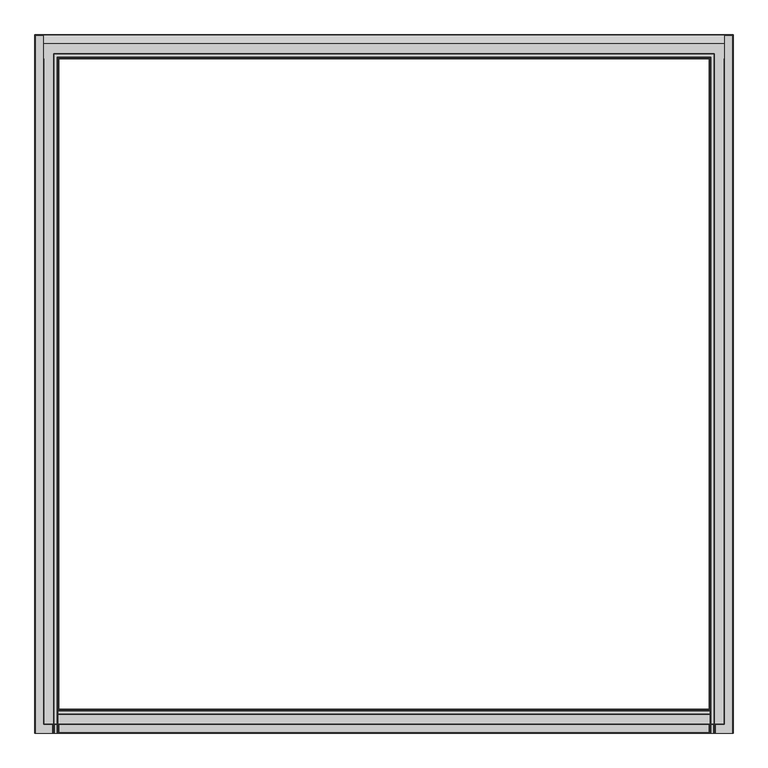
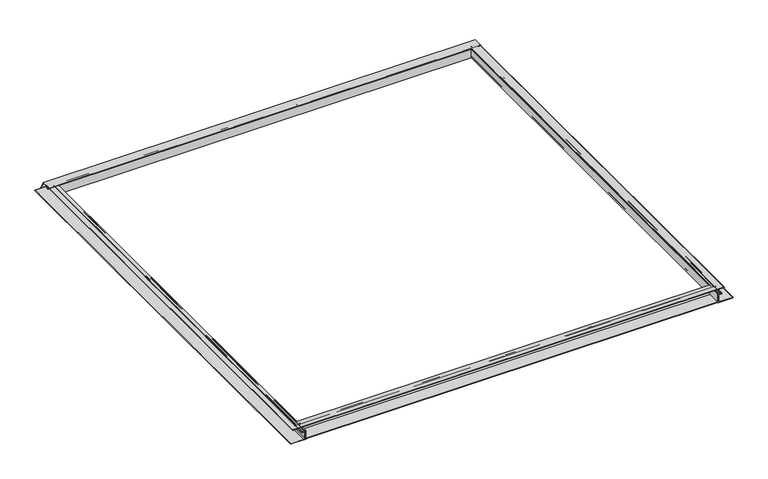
"""IFC4 building model written with IfcOpenShell, lengths in millimetres: fastener geometry."""

from ifc_helpers import new_model, si_unit, point, frame, frame_2d, origin, place, context, project, spatial, polyline, circle_curve, ellipse_curve, trimmed, segment, composite_curve, outline, extrude, source, transform, mapped, element, save
from ifc_brep_helpers import plane_surface, cylinder_surface, revolved_surface, advanced_brep


def fastener_e2efdb11(model_context):
    return source(origin(), model_context, "Body", "SolidModel", [
        advanced_brep(
        [(-1189.1053092, 1141.2343456, -2.667), (-1189.1053092, 1135.3165, -2.667), (-1189.1053092, 1135.3165, -1.3335), (-1189.1053092, 1135.3165, 0.0), (-1189.1053092, 1190.6451024, 0.0), (-1189.1053092, 1217.7515464, -46.9497383), (-1189.1053092, 1215.4418567, -48.2832383), (-1189.1053092, 1189.1053092, -2.667), (-1189.1053092, 1161.8308783, -2.667), (-1189.1053092, 1159.573508, -4.9243702), (-1189.1053092, 1159.573508, -14.2617849), (-1189.1053092, 1149.6719492, -14.2617849), (-1189.1053092, 1149.6719492, -12.2646442), (-1189.1053092, 1150.5032605, -12.2646442), (-1189.1053092, 1151.5117177, -11.256187), (-1189.1053092, 1151.5117177, -9.3645413), (-1189.1053092, 1156.2117258, -9.3645413), (-1189.1053092, 1156.2117258, -2.667), (-1189.1053092, 1152.1178999, -2.667), (-1189.1053092, 1151.9131963, -4.7080293), (-1189.1053092, 1152.9812344, -5.7760674), (-1189.1053092, 1152.5091166, -6.6975413), (-1189.1053092, 1140.8431289, -6.6975413), (-1189.1053092, 1140.3710112, -5.7760674), (-1189.1053092, 1141.4390493, -4.7080293), (1189.1053092, 1141.2343456, -2.667), (1189.1053092, 1141.4390493, -4.7080293), (1189.1053092, 1140.3710112, -5.7760674), (1189.1053092, 1140.8431289, -6.6975413), (1189.1053092, 1152.5091166, -6.6975413), (1189.1053092, 1152.9812344, -5.7760674), (1189.1053092, 1151.9131963, -4.7080293), (1189.1053092, 1152.1178999, -2.667), (1189.1053092, 1156.2117258, -2.667), (1189.1053092, 1156.2117258, -9.3645413), (1189.1053092, 1151.5117177, -9.3645413), (1189.1053092, 1151.5117177, -11.256187), (1189.1053092, 1150.5032605, -12.2646442), (1189.1053092, 1149.6719492, -12.2646442), (1189.1053092, 1149.6719492, -14.2617849), (1189.1053092, 1159.573508, -14.2617849), (1189.1053092, 1159.573508, -4.9243702), (1189.1053092, 1161.8308783, -2.667), (1189.1053092, 1189.1053092, -2.667), (1189.1053092, 1215.4418567, -48.2832383), (1189.1053092, 1217.7515464, -46.9497383), (1189.1053092, 1190.6451024, 0.0), (1189.1053092, 1135.3165, 0.0), (1189.1053092, 1135.3165, -1.3335), (1189.1053092, 1135.3165, -2.667), (1187.7718092, 1135.3165, -2.667), (1187.7718092, -1187.7718092, -2.667), (-1187.7718092, -1187.7718092, -2.667), (-1187.7718092, 1135.3165, -2.667), (1135.3165, 1135.3165, -2.667), (-1135.3165, 1135.3165, -2.667), (-1135.3165, -1135.3165, -2.667), (1135.3165, -1135.3165, -2.667), (-1141.2160631, 1135.3165, -2.667), (-1152.1361825, 1135.3165, -2.667), (-1152.1361825, -1152.1361825, -2.667), (1152.1361825, -1152.1361825, -2.667), (1152.1361825, 1135.3165, -2.667), (1141.2160631, 1135.3165, -2.667), (1141.2160631, -1141.2160631, -2.667), (-1141.2160631, -1141.2160631, -2.667), (-1156.2117258, 1135.3165, -2.667), (-1161.8308783, 1135.3165, -2.667), (-1161.8308783, -1161.8308783, -2.667), (1161.8308783, -1161.8308783, -2.667), (1161.8308783, 1135.3165, -2.667), (1156.2117258, 1135.3165, -2.667), (1156.2117258, -1156.2117258, -2.667), (-1156.2117258, -1156.2117258, -2.667), (-1187.7718092, 1135.3165, 0.0), (1187.7718092, 1135.3165, 0.0), (1135.3165, 1135.3165, 0.0), (-1135.3165, 1135.3165, 0.0), (-1187.7718092, -1187.7718092, 0.0), (1187.7718092, -1187.7718092, 0.0), (1135.3165, -1135.3165, 0.0), (-1135.3165, -1135.3165, 0.0), (-1141.4390493, 1135.3165, -4.7199355), (-1140.3710112, 1135.3165, -5.7879736), (-1140.8431289, 1135.3165, -6.7094475), (-1152.5091166, 1135.3165, -6.7094475), (-1152.9812344, 1135.3165, -5.7879736), (-1151.9131963, 1135.3165, -4.7199355), (-1156.2117258, 1135.3165, -9.3764475), (-1151.5117177, 1135.3165, -9.3764475), (-1151.5117177, 1135.3165, -11.2680933), (-1150.5032605, 1135.3165, -12.2765504), (-1149.6719492, 1135.3165, -12.2765504), (-1149.6719492, 1135.3165, -14.2617849), (-1159.573508, 1135.3165, -14.2617849), (-1159.573508, 1135.3165, -4.9243702), (-1141.4390493, -1141.4390493, -4.7199355), (-1140.3710112, -1140.3710112, -5.7879736), (-1140.8431289, -1140.8431289, -6.7094475), (1140.8431289, -1140.8431289, -6.7094475), (1140.8431289, 1135.3165, -6.7094475), (1152.5091166, 1135.3165, -6.7094475), (1152.5091166, -1152.5091166, -6.7094475), (-1152.5091166, -1152.5091166, -6.7094475), (-1152.9812344, -1152.9812344, -5.7879736), (-1151.9131963, -1151.9131963, -4.7199355), (-1156.2117258, -1156.2117258, -9.3764475), (1156.2117258, -1156.2117258, -9.3764475), (1156.2117258, 1135.3165, -9.3764475), (1151.5117177, 1135.3165, -9.3764475), (1151.5117177, -1151.5117177, -9.3764475), (-1151.5117177, -1151.5117177, -9.3764475), (-1151.5117177, -1151.5117177, -11.2680933), (-1150.5032605, -1150.5032605, -12.2765504), (1150.5032605, -1150.5032605, -12.2765504), (1150.5032605, 1135.3165, -12.2765504), (1149.6719492, 1135.3165, -12.2765504), (1149.6719492, -1149.6719492, -12.2765504), (-1149.6719492, -1149.6719492, -12.2765504), (-1149.6719492, -1149.6719492, -14.2617849), (1149.6719492, -1149.6719492, -14.2617849), (1149.6719492, 1135.3165, -14.2617849), (1159.573508, 1135.3165, -14.2617849), (1159.573508, -1159.573508, -14.2617849), (-1159.573508, -1159.573508, -14.2617849), (-1159.573508, -1159.573508, -4.9243702), (1141.4390493, -1141.4390493, -4.7199355), (1140.3710112, -1140.3710112, -5.7879736), (1152.9812344, -1152.9812344, -5.7879736), (1151.9131963, -1151.9131963, -4.7199355), (1151.5117177, -1151.5117177, -11.2680933), (1159.573508, -1159.573508, -4.9243702), (1140.3710112, 1135.3165, -5.7879736), (1141.4390493, 1135.3165, -4.7199355), (1151.9131963, 1135.3165, -4.7199355), (1152.9812344, 1135.3165, -5.7879736), (1159.573508, 1135.3165, -4.9243702), (1151.5117177, 1135.3165, -11.2680933)],
        [
            (0, 1),
            (1, 2),
            (2, 3),
            (3, 4),
            (4, 5),
            (5, 6),
            (6, 7),
            (7, 8),
            (8, 9, circle_curve(frame((-1189.1053092, 1161.8308783, -4.9243702), z_axis=(1.0, 0.0, 0.0), x_axis=(0.0, 1.0, 0.0)), 2.2573702)),
            (9, 10),
            (10, 11),
            (11, 12, circle_curve(frame((-1189.1053092, 1149.6719492, -13.2632145), z_axis=(-1.0, 0.0, 0.0), x_axis=(0.0, 1.0, 0.0)), 0.9985703)),
            (12, 13),
            (13, 14, circle_curve(frame((-1189.1053092, 1150.5032605, -11.256187), z_axis=(1.0, 0.0, 0.0), x_axis=(0.0, 1.0, 0.0)), 1.0084572)),
            (14, 15),
            (15, 16),
            (16, 17),
            (17, 18),
            (18, 19, circle_curve(frame((-1189.1053092, 1152.8500183, -3.7712073), z_axis=(1.0, 0.0, 0.0), x_axis=(0.0, 1.0, 0.0)), 1.3248664)),
            (19, 20),
            (20, 21, circle_curve(frame((-1189.1053092, 1152.5091166, -6.1158594), z_axis=(-1.0, 0.0, 0.0), x_axis=(0.0, 1.0, 0.0)), 0.5816819)),
            (21, 22),
            (22, 23, circle_curve(frame((-1189.1053092, 1140.8431289, -6.1158594), z_axis=(-1.0, 0.0, 0.0), x_axis=(0.0, 1.0, 0.0)), 0.5816819)),
            (23, 24),
            (24, 0, circle_curve(frame((-1189.1053092, 1140.5022273, -3.7712073), z_axis=(1.0, 0.0, 0.0), x_axis=(0.0, 1.0, 0.0)), 1.3248664)),
            (25, 26, circle_curve(frame((1189.1053092, 1140.5022273, -3.7712073), z_axis=(-1.0, 0.0, 0.0), x_axis=(0.0, 1.0, 0.0)), 1.3248664)),
            (26, 27),
            (27, 28, circle_curve(frame((1189.1053092, 1140.8431289, -6.1158594), z_axis=(1.0, 0.0, 0.0), x_axis=(0.0, 1.0, 0.0)), 0.5816819)),
            (28, 29),
            (29, 30, circle_curve(frame((1189.1053092, 1152.5091166, -6.1158594), z_axis=(1.0, 0.0, 0.0), x_axis=(0.0, 1.0, 0.0)), 0.5816819)),
            (30, 31),
            (31, 32, circle_curve(frame((1189.1053092, 1152.8500183, -3.7712073), z_axis=(-1.0, 0.0, 0.0), x_axis=(0.0, 1.0, 0.0)), 1.3248664)),
            (32, 33),
            (33, 34),
            (34, 35),
            (35, 36),
            (36, 37, circle_curve(frame((1189.1053092, 1150.5032605, -11.256187), z_axis=(-1.0, 0.0, 0.0), x_axis=(0.0, 1.0, 0.0)), 1.0084572)),
            (37, 38),
            (38, 39, circle_curve(frame((1189.1053092, 1149.6719492, -13.2632145), z_axis=(1.0, 0.0, 0.0), x_axis=(0.0, 1.0, 0.0)), 0.9985703)),
            (39, 40),
            (40, 41),
            (41, 42, circle_curve(frame((1189.1053092, 1161.8308783, -4.9243702), z_axis=(-1.0, 0.0, 0.0), x_axis=(0.0, 1.0, 0.0)), 2.2573702)),
            (42, 43),
            (43, 44),
            (44, 45),
            (45, 46),
            (46, 47),
            (47, 48),
            (48, 49),
            (49, 25),
            (0, 25),
            (49, 50),
            (50, 51),
            (51, 52),
            (52, 53),
            (53, 1),
            (54, 55),
            (55, 56),
            (56, 57),
            (57, 54),
            (58, 59),
            (59, 60),
            (60, 61),
            (61, 62),
            (62, 63),
            (63, 64),
            (64, 65),
            (65, 58),
            (66, 67),
            (67, 68),
            (68, 69),
            (69, 70),
            (70, 71),
            (71, 72),
            (72, 73),
            (73, 66),
            (53, 2, circle_curve(frame((-1187.7718092, 1135.3165, -1.3335), z_axis=(0.0, 1.0, 0.0), x_axis=(1.0, 0.0, 0.0)), 1.3335)),
            (2, 74, circle_curve(frame((-1187.7718092, 1135.3165, -1.3335), z_axis=(0.0, 1.0, 0.0), x_axis=(1.0, 0.0, 0.0)), 1.3335)),
            (74, 3),
            (47, 75),
            (75, 48, circle_curve(frame((1187.7718092, 1135.3165, -1.3335), z_axis=(0.0, 1.0, 0.0), x_axis=(-1.0, 0.0, 0.0)), 1.3335)),
            (48, 50, circle_curve(frame((1187.7718092, 1135.3165, -1.3335), z_axis=(0.0, 1.0, 0.0), x_axis=(-1.0, 0.0, 0.0)), 1.3335)),
            (54, 76),
            (76, 77),
            (77, 55),
            (74, 78),
            (78, 79),
            (79, 75),
            (46, 4),
            (76, 80),
            (80, 81),
            (81, 77),
            (45, 5),
            (44, 6),
            (43, 7),
            (42, 8),
            (41, 9),
            (40, 10),
            (39, 11),
            (38, 12),
            (37, 13),
            (36, 14),
            (35, 15),
            (34, 16),
            (33, 17),
            (32, 18),
            (19, 31),
            (30, 20),
            (29, 21),
            (28, 22),
            (27, 23),
            (26, 24),
            (58, 82, circle_curve(frame((-1140.5022273, 1135.3165, -3.7831135), z_axis=(0.0, -1.0, 0.0), x_axis=(1.0, 0.0, 0.0)), 1.3248664)),
            (82, 83),
            (83, 84, circle_curve(frame((-1140.8431289, 1135.3165, -6.1277656), z_axis=(0.0, 1.0, 0.0), x_axis=(1.0, 0.0, 0.0)), 0.5816819)),
            (84, 85),
            (85, 86, circle_curve(frame((-1152.5091166, 1135.3165, -6.1277656), z_axis=(0.0, 1.0, 0.0), x_axis=(1.0, 0.0, 0.0)), 0.5816819)),
            (86, 87),
            (87, 59, circle_curve(frame((-1152.8500183, 1135.3165, -3.7831135), z_axis=(0.0, -1.0, 0.0), x_axis=(1.0, 0.0, 0.0)), 1.3248664)),
            (66, 88),
            (88, 89),
            (89, 90),
            (90, 91, circle_curve(frame((-1150.5032605, 1135.3165, -11.2680933), z_axis=(0.0, -1.0, 0.0), x_axis=(1.0, 0.0, 0.0)), 1.0084572)),
            (91, 92),
            (92, 93, circle_curve(frame((-1149.6719492, 1135.3165, -13.2691676), z_axis=(0.0, 1.0, 0.0), x_axis=(1.0, 0.0, 0.0)), 0.9926172)),
            (93, 94),
            (94, 95),
            (95, 67, circle_curve(frame((-1161.8308783, 1135.3165, -4.9243702), z_axis=(0.0, -1.0, 0.0), x_axis=(1.0, 0.0, 0.0)), 2.2573702)),
            (65, 96, ellipse_curve(frame((-1140.5022273, -1140.5022273, -3.7831135), z_axis=(0.7071067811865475, -0.7071067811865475, 0.0), x_axis=(-0.7071067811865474, -0.7071067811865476, 0.0)), 1.873644, 1.3248664)),
            (96, 82),
            (96, 97),
            (97, 83),
            (97, 98, ellipse_curve(frame((-1140.8431289, -1140.8431289, -6.1277656), z_axis=(-0.7071067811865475, 0.7071067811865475, 0.0), x_axis=(0.7071067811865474, 0.7071067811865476, 0.0)), 0.8226224, 0.5816819)),
            (98, 84),
            (98, 99),
            (99, 100),
            (100, 101),
            (101, 102),
            (102, 103),
            (103, 85),
            (103, 104, ellipse_curve(frame((-1152.5091166, -1152.5091166, -6.1277656), z_axis=(-0.7071067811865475, 0.7071067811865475, 0.0), x_axis=(0.7071067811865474, 0.7071067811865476, 0.0)), 0.8226224, 0.5816819)),
            (104, 86),
            (104, 105),
            (105, 87),
            (105, 60, ellipse_curve(frame((-1152.8500183, -1152.8500183, -3.7831135), z_axis=(0.7071067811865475, -0.7071067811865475, 0.0), x_axis=(-0.7071067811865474, -0.7071067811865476, 0.0)), 1.873644, 1.3248664)),
            (73, 106),
            (106, 88),
            (106, 107),
            (107, 108),
            (108, 109),
            (109, 110),
            (110, 111),
            (111, 89),
            (111, 112),
            (112, 90),
            (112, 113, ellipse_curve(frame((-1150.5032605, -1150.5032605, -11.2680933), z_axis=(0.7071067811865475, -0.7071067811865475, 0.0), x_axis=(-0.7071067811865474, -0.7071067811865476, 0.0)), 1.4261738, 1.0084572)),
            (113, 91),
            (113, 114),
            (114, 115),
            (115, 116),
            (116, 117),
            (117, 118),
            (118, 92),
            (118, 119, ellipse_curve(frame((-1149.6719492, -1149.6719492, -13.2691676), z_axis=(-0.7071067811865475, 0.7071067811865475, 0.0), x_axis=(0.7071067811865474, 0.7071067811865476, 0.0)), 1.4037727, 0.9926172)),
            (119, 93),
            (119, 120),
            (120, 121),
            (121, 122),
            (122, 123),
            (123, 124),
            (124, 94),
            (124, 125),
            (125, 95),
            (125, 68, ellipse_curve(frame((-1161.8308783, -1161.8308783, -4.9243702), z_axis=(0.7071067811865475, -0.7071067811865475, 0.0), x_axis=(-0.7071067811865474, -0.7071067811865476, 0.0)), 3.1924036, 2.2573702)),
            (52, 78, ellipse_curve(frame((-1187.7718092, -1187.7718092, -1.3335), z_axis=(-0.7071067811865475, 0.7071067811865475, 0.0), x_axis=(0.7071067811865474, 0.7071067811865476, 0.0)), 1.8858538, 1.3335)),
            (81, 56),
            (64, 126, ellipse_curve(frame((1140.5022273, -1140.5022273, -3.7831135), z_axis=(0.7071067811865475, 0.7071067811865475, 0.0), x_axis=(0.7071067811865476, -0.7071067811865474, 0.0)), 1.873644, 1.3248664)),
            (126, 96),
            (126, 127),
            (127, 97),
            (127, 99, ellipse_curve(frame((1140.8431289, -1140.8431289, -6.1277656), z_axis=(-0.7071067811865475, -0.7071067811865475, 0.0), x_axis=(-0.7071067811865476, 0.7071067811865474, 0.0)), 0.8226224, 0.5816819)),
            (102, 128, ellipse_curve(frame((1152.5091166, -1152.5091166, -6.1277656), z_axis=(-0.7071067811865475, -0.7071067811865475, 0.0), x_axis=(-0.7071067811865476, 0.7071067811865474, 0.0)), 0.8226224, 0.5816819)),
            (128, 104),
            (128, 129),
            (129, 105),
            (129, 61, ellipse_curve(frame((1152.8500183, -1152.8500183, -3.7831135), z_axis=(0.7071067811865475, 0.7071067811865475, 0.0), x_axis=(0.7071067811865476, -0.7071067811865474, 0.0)), 1.873644, 1.3248664)),
            (72, 107),
            (110, 130),
            (130, 112),
            (130, 114, ellipse_curve(frame((1150.5032605, -1150.5032605, -11.2680933), z_axis=(0.7071067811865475, 0.7071067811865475, 0.0), x_axis=(0.7071067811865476, -0.7071067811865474, 0.0)), 1.4261738, 1.0084572)),
            (117, 120, ellipse_curve(frame((1149.6719492, -1149.6719492, -13.2691676), z_axis=(-0.7071067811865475, -0.7071067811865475, 0.0), x_axis=(-0.7071067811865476, 0.7071067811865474, 0.0)), 1.4037727, 0.9926172)),
            (123, 131),
            (131, 125),
            (131, 69, ellipse_curve(frame((1161.8308783, -1161.8308783, -4.9243702), z_axis=(0.7071067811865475, 0.7071067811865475, 0.0), x_axis=(0.7071067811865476, -0.7071067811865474, 0.0)), 3.1924036, 2.2573702)),
            (51, 79, ellipse_curve(frame((1187.7718092, -1187.7718092, -1.3335), z_axis=(-0.7071067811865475, -0.7071067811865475, 0.0), x_axis=(-0.7071067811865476, 0.7071067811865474, 0.0)), 1.8858538, 1.3335)),
            (80, 57),
            (100, 132, circle_curve(frame((1140.8431289, 1135.3165, -6.1277656), z_axis=(0.0, 1.0, 0.0), x_axis=(-1.0, 0.0, 0.0)), 0.5816819)),
            (132, 133),
            (133, 63, circle_curve(frame((1140.5022273, 1135.3165, -3.7831135), z_axis=(0.0, -1.0, 0.0), x_axis=(-1.0, 0.0, 0.0)), 1.3248664)),
            (62, 134, circle_curve(frame((1152.8500183, 1135.3165, -3.7831135), z_axis=(0.0, -1.0, 0.0), x_axis=(-1.0, 0.0, 0.0)), 1.3248664)),
            (134, 135),
            (135, 101, circle_curve(frame((1152.5091166, 1135.3165, -6.1277656), z_axis=(0.0, 1.0, 0.0), x_axis=(-1.0, 0.0, 0.0)), 0.5816819)),
            (108, 71),
            (70, 136, circle_curve(frame((1161.8308783, 1135.3165, -4.9243702), z_axis=(0.0, -1.0, 0.0), x_axis=(-1.0, 0.0, 0.0)), 2.2573702)),
            (136, 122),
            (121, 116, circle_curve(frame((1149.6719492, 1135.3165, -13.2691676), z_axis=(0.0, 1.0, 0.0), x_axis=(-1.0, 0.0, 0.0)), 0.9926172)),
            (115, 137, circle_curve(frame((1150.5032605, 1135.3165, -11.2680933), z_axis=(0.0, -1.0, 0.0), x_axis=(-1.0, 0.0, 0.0)), 1.0084572)),
            (137, 109),
            (133, 126),
            (132, 127),
            (135, 128),
            (134, 129),
            (137, 130),
            (136, 131),
        ],
        [
            plane_surface(frame((-1189.1053092, 1219.2, 0.0), z_axis=(-1.0, 0.0, 0.0), x_axis=(0.0, 0.0, 1.0))),
            plane_surface(frame((1189.1053092, 1219.2, 0.0), z_axis=(1.0, 0.0, 0.0), x_axis=(0.0, 0.0, 1.0))),
            plane_surface(frame((-1189.1053092, 1141.2343456, -2.667), z_axis=(0.0, 0.0, -1.0), x_axis=(1.0, 0.0, 0.0))),
            plane_surface(frame((-1189.1053092, 1135.3165, -2.667), z_axis=(0.0, -1.0, 0.0), x_axis=(1.0, 0.0, 0.0))),
            plane_surface(frame((-1189.1053092, 1135.3165, 0.0), z_axis=(0.0, 0.0, 1.0), x_axis=(1.0, 0.0, 0.0))),
            plane_surface(frame((-1189.1053092, 1190.6451024, 0.0), z_axis=(0.0, 0.8660254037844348, 0.5000000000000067), x_axis=(1.0, 0.0, 0.0))),
            plane_surface(frame((-1189.1053092, 1217.7515464, -46.9497383), z_axis=(0.0, 0.4999999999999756, -0.8660254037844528), x_axis=(1.0, 0.0, 0.0))),
            plane_surface(frame((-1189.1053092, 1215.4418567, -48.2832383), z_axis=(0.0, -0.866025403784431, -0.5000000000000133), x_axis=(1.0, 0.0, 0.0))),
            plane_surface(frame((-1189.1053092, 1189.1053092, -2.667), z_axis=(0.0, 0.0, -1.0), x_axis=(1.0, 0.0, 0.0))),
            revolved_surface(polyline([(1189.1053092, 1164.0882485, -4.9243702), (-1189.1053092, 1164.0882485, -4.9243702)]), (-1189.1053092, 1161.8308783, -4.9243702), (1.0, 0.0, 0.0)),
            plane_surface(frame((-1189.1053092, 1159.573508, -4.9243702), z_axis=(0.0, 1.0, 0.0), x_axis=(1.0, 0.0, 0.0))),
            plane_surface(frame((-1189.1053092, 1159.573508, -14.2617849), z_axis=(0.0, 0.0, -1.0), x_axis=(1.0, 0.0, 0.0))),
            cylinder_surface(frame((-1189.1053092, 1149.6719492, -13.2632145), z_axis=(-1.0, 0.0, 0.0), x_axis=(0.0, 1.0, 0.0)), 0.9985703),
            plane_surface(frame((-1189.1053092, 1149.6719492, -12.2646442), z_axis=(0.0, 0.0, 1.0), x_axis=(1.0, 0.0, 0.0))),
            revolved_surface(polyline([(1189.1053092, 1151.5117177, -11.256187), (-1189.1053092, 1151.5117177, -11.256187)]), (-1189.1053092, 1150.5032605, -11.256187), (1.0, 0.0, 0.0)),
            plane_surface(frame((-1189.1053092, 1151.5117177, -11.256187), z_axis=(0.0, -1.0, 0.0), x_axis=(1.0, 0.0, 0.0))),
            plane_surface(frame((-1189.1053092, 1151.5117177, -9.3645413), z_axis=(0.0, 0.0, 1.0), x_axis=(1.0, 0.0, 0.0))),
            plane_surface(frame((-1189.1053092, 1156.2117258, -9.3645413), z_axis=(0.0, -1.0, 0.0), x_axis=(1.0, 0.0, 0.0))),
            plane_surface(frame((-1189.1053092, 1156.2117258, -2.667), z_axis=(0.0, 0.0, -1.0), x_axis=(1.0, 0.0, 0.0))),
            plane_surface(frame((-1189.1053092, 1151.9131963, -4.7080293), z_axis=(0.0, 0.7071067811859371, 0.7071067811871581), x_axis=(1.0, 0.0, 0.0))),
            cylinder_surface(frame((-1189.1053092, 1152.5091166, -6.1158594), z_axis=(-1.0, 0.0, 0.0), x_axis=(0.0, 1.0, 0.0)), 0.5816819),
            plane_surface(frame((-1189.1053092, 1152.5091166, -6.6975413), z_axis=(0.0, 0.0, -1.0), x_axis=(1.0, 0.0, 0.0))),
            cylinder_surface(frame((-1189.1053092, 1140.8431289, -6.1158594), z_axis=(-1.0, 0.0, 0.0), x_axis=(0.0, 1.0, 0.0)), 0.5816819),
            plane_surface(frame((-1189.1053092, 1140.3710112, -5.7760674), z_axis=(0.0, -0.7071067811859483, 0.7071067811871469), x_axis=(1.0, 0.0, 0.0))),
            revolved_surface(polyline([(1189.1053092, 1154.1748847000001, -3.7712073), (-1189.1053092, 1154.1748847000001, -3.7712073)]), (-1189.1053092, 1152.8500183, -3.7712073), (1.0, 0.0, 0.0)),
            revolved_surface(polyline([(1189.1053092, 1141.8270937, -3.7712073), (-1189.1053092, 1141.8270937, -3.7712073)]), (-1189.1053092, 1140.5022273, -3.7712073), (1.0, 0.0, 0.0)),
            plane_surface(frame((-1219.2, 1135.3165, 0.0), z_axis=(0.0, 1.0, 0.0), x_axis=(0.0, 0.0, 1.0))),
            revolved_surface(polyline([(-1139.1773609, -1141.8270936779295, -3.7831135), (-1139.1773609, 1135.3165, -3.7831135)]), (-1140.5022273, 1135.3165, -3.7831135), (0.0, -1.0, 0.0)),
            plane_surface(frame((-1141.4390493, 1135.3165, -4.7199355), z_axis=(0.7071067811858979, 0.0, 0.7071067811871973), x_axis=(0.0, -1.0, 0.0))),
            cylinder_surface(frame((-1140.8431289, 1135.3165, -6.1277656), z_axis=(0.0, 1.0, 0.0), x_axis=(1.0, 0.0, 0.0)), 0.5816819),
            plane_surface(frame((-1140.8431289, 1135.3165, -6.7094475), z_axis=(0.0, 0.0, -1.0), x_axis=(0.0, -1.0, 0.0))),
            cylinder_surface(frame((-1152.5091166, 1135.3165, -6.1277656), z_axis=(0.0, 1.0, 0.0), x_axis=(1.0, 0.0, 0.0)), 0.5816819),
            plane_surface(frame((-1152.9812344, 1135.3165, -5.7879736), z_axis=(-0.7071067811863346, 0.0, 0.7071067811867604), x_axis=(0.0, -1.0, 0.0))),
            revolved_surface(polyline([(-1151.5251519, -1154.1748846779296, -3.7831135), (-1151.5251519, 1135.3165, -3.7831135)]), (-1152.8500183, 1135.3165, -3.7831135), (0.0, -1.0, 0.0)),
            plane_surface(frame((-1156.2117258, 1135.3165, -2.667), z_axis=(1.0, 0.0, 0.0), x_axis=(0.0, -1.0, 0.0))),
            plane_surface(frame((-1156.2117258, 1135.3165, -9.3764475), z_axis=(0.0, 0.0, 1.0), x_axis=(0.0, -1.0, 0.0))),
            plane_surface(frame((-1151.5117177, 1135.3165, -9.3764475), z_axis=(1.0, 0.0, 0.0), x_axis=(0.0, -1.0, 0.0))),
            revolved_surface(polyline([(-1149.4948032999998, -1151.5117177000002, -11.2680933), (-1149.4948032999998, 1135.3165, -11.2680933)]), (-1150.5032605, 1135.3165, -11.2680933), (0.0, -1.0, 0.0)),
            plane_surface(frame((-1150.5032605, 1135.3165, -12.2765504), z_axis=(0.0, 0.0, 1.0), x_axis=(0.0, -1.0, 0.0))),
            cylinder_surface(frame((-1149.6719492, 1135.3165, -13.2691676), z_axis=(0.0, 1.0, 0.0), x_axis=(1.0, 0.0, 0.0)), 0.9926172),
            plane_surface(frame((-1149.6719492, 1135.3165, -14.2617849), z_axis=(0.0, 0.0, -1.0), x_axis=(0.0, -1.0, 0.0))),
            plane_surface(frame((-1159.573508, 1135.3165, -14.2617849), z_axis=(-1.0, 0.0, 0.0), x_axis=(0.0, -1.0, 0.0))),
            revolved_surface(polyline([(-1159.5735081, -1164.0882485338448, -4.9243702), (-1159.5735081, 1135.3165, -4.9243702)]), (-1161.8308783, 1135.3165, -4.9243702), (0.0, -1.0, 0.0)),
            cylinder_surface(frame((-1187.7718092, 1135.3165, -1.3335), z_axis=(0.0, 1.0, 0.0), x_axis=(1.0, 0.0, 0.0)), 1.3335),
            plane_surface(frame((-1135.3165, 1135.3165, 0.0), z_axis=(1.0, 0.0, 0.0), x_axis=(0.0, -1.0, 0.0))),
            revolved_surface(polyline([(1141.8270936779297, -1139.1773609, -3.7831135), (-1141.8270936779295, -1139.1773609, -3.7831135)]), (-1219.2, -1140.5022273, -3.7831135), (1.0, 0.0, 0.0)),
            plane_surface(frame((-1141.4390493, -1141.4390493, -4.7199355), z_axis=(0.0, 0.7071067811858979, 0.7071067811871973), x_axis=(1.0, 0.0, 0.0))),
            cylinder_surface(frame((-1219.2, -1140.8431289, -6.1277656), z_axis=(-1.0, 0.0, 0.0), x_axis=(0.0, 1.0, 0.0)), 0.5816819),
            cylinder_surface(frame((-1219.2, -1152.5091166, -6.1277656), z_axis=(-1.0, 0.0, 0.0), x_axis=(0.0, 1.0, 0.0)), 0.5816819),
            plane_surface(frame((-1152.9812344, -1152.9812344, -5.7879736), z_axis=(0.0, -0.7071067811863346, 0.7071067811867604), x_axis=(1.0, 0.0, 0.0))),
            revolved_surface(polyline([(1154.1748846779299, -1151.5251519, -3.7831135), (-1154.1748846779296, -1151.5251519, -3.7831135)]), (-1219.2, -1152.8500183, -3.7831135), (1.0, 0.0, 0.0)),
            plane_surface(frame((-1156.2117258, -1156.2117258, -2.667), z_axis=(0.0, 1.0, 0.0), x_axis=(1.0, 0.0, 0.0))),
            plane_surface(frame((-1151.5117177, -1151.5117177, -9.3764475), z_axis=(0.0, 1.0, 0.0), x_axis=(1.0, 0.0, 0.0))),
            revolved_surface(polyline([(1151.5117177, -1149.4948032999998, -11.2680933), (-1151.5117177, -1149.4948032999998, -11.2680933)]), (-1219.2, -1150.5032605, -11.2680933), (1.0, 0.0, 0.0)),
            cylinder_surface(frame((-1219.2, -1149.6719492, -13.2691676), z_axis=(-1.0, 0.0, 0.0), x_axis=(0.0, 1.0, 0.0)), 0.9926172),
            plane_surface(frame((-1159.573508, -1159.573508, -14.2617849), z_axis=(0.0, -1.0, 0.0), x_axis=(1.0, 0.0, 0.0))),
            revolved_surface(polyline([(1164.0882485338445, -1159.5735081, -4.9243702), (-1164.0882485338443, -1159.5735081, -4.9243702)]), (-1219.2, -1161.8308783, -4.9243702), (1.0, 0.0, 0.0)),
            cylinder_surface(frame((-1219.2, -1187.7718092, -1.3335), z_axis=(-1.0, 0.0, 0.0), x_axis=(0.0, 1.0, 0.0)), 1.3335),
            plane_surface(frame((-1135.3165, -1135.3165, 0.0), z_axis=(0.0, 1.0, 0.0), x_axis=(1.0, 0.0, 0.0))),
            plane_surface(frame((1219.2, 1135.3165, 0.0), z_axis=(0.0, 1.0, 0.0), x_axis=(0.0, 0.0, 1.0))),
            revolved_surface(polyline([(1139.1773609, 1135.3164999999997, -3.7831135), (1139.1773609, -1141.8270936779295, -3.7831135)]), (1140.5022273, -1219.2, -3.7831135), (0.0, 1.0, 0.0)),
            plane_surface(frame((1141.4390493, -1141.4390493, -4.7199355), z_axis=(-0.7071067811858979, 0.0, 0.7071067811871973), x_axis=(0.0, 1.0, 0.0))),
            cylinder_surface(frame((1140.8431289, -1219.2, -6.1277656), z_axis=(0.0, -1.0, 0.0), x_axis=(-1.0, 0.0, 0.0)), 0.5816819),
            cylinder_surface(frame((1152.5091166, -1219.2, -6.1277656), z_axis=(0.0, -1.0, 0.0), x_axis=(-1.0, 0.0, 0.0)), 0.5816819),
            plane_surface(frame((1152.9812344, -1152.9812344, -5.7879736), z_axis=(0.7071067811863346, 0.0, 0.7071067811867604), x_axis=(0.0, 1.0, 0.0))),
            revolved_surface(polyline([(1151.5251519, 1135.3164999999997, -3.7831135), (1151.5251519, -1154.1748846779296, -3.7831135)]), (1152.8500183, -1219.2, -3.7831135), (0.0, 1.0, 0.0)),
            plane_surface(frame((1156.2117258, -1156.2117258, -2.667), z_axis=(-1.0, 0.0, 0.0), x_axis=(0.0, 1.0, 0.0))),
            plane_surface(frame((1151.5117177, -1151.5117177, -9.3764475), z_axis=(-1.0, 0.0, 0.0), x_axis=(0.0, 1.0, 0.0))),
            revolved_surface(polyline([(1149.4948032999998, 1135.3164999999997, -11.2680933), (1149.4948032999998, -1151.5117177, -11.2680933)]), (1150.5032605, -1219.2, -11.2680933), (0.0, 1.0, 0.0)),
            cylinder_surface(frame((1149.6719492, -1219.2, -13.2691676), z_axis=(0.0, -1.0, 0.0), x_axis=(-1.0, 0.0, 0.0)), 0.9926172),
            plane_surface(frame((1159.573508, -1159.573508, -14.2617849), z_axis=(1.0, 0.0, 0.0), x_axis=(0.0, 1.0, 0.0))),
            revolved_surface(polyline([(1159.5735081, 1135.3164999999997, -4.9243702), (1159.5735081, -1164.0882485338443, -4.9243702)]), (1161.8308783, -1219.2, -4.9243702), (0.0, 1.0, 0.0)),
            cylinder_surface(frame((1187.7718092, -1219.2, -1.3335), z_axis=(0.0, -1.0, 0.0), x_axis=(-1.0, 0.0, 0.0)), 1.3335),
            plane_surface(frame((1135.3165, -1135.3165, 0.0), z_axis=(-1.0, 0.0, 0.0), x_axis=(0.0, 1.0, 0.0))),
        ],
        [
            (0, [[1, 2, 3, 4, 5, 6, 7, 8, 9, 10, 11, 12, 13, 14, 15, 16, 17, 18, 19, 20, 21, 22, 23, 24, 25]]),
            (1, [[26, 27, 28, 29, 30, 31, 32, 33, 34, 35, 36, 37, 38, 39, 40, 41, 42, 43, 44, 45, 46, 47, 48, 49, 50]]),
            (2, [[-1, 51, -50, 52, 53, 54, 55, 56], [57, 58, 59, 60], [61, 62, 63, 64, 65, 66, 67, 68], [69, 70, 71, 72, 73, 74, 75, 76]]),
            (3, [[-2, -56, 77]]),
            (3, [[-3, 78, 79]]),
            (3, [[-48, 80, 81]]),
            (3, [[-49, 82, -52]]),
            (3, [[-57, 83, 84, 85]]),
            (4, [[-4, -79, 86, 87, 88, -80, -47, 89], [-84, 90, 91, 92]]),
            (5, [[-5, -89, -46, 93]]),
            (6, [[-6, -93, -45, 94]]),
            (7, [[-7, -94, -44, 95]]),
            (8, [[-8, -95, -43, 96]]),
            (9, [[-9, -96, -42, 97]]),
            (10, [[-10, -97, -41, 98]]),
            (11, [[-11, -98, -40, 99]]),
            (12, [[-12, -99, -39, 100]]),
            (13, [[-13, -100, -38, 101]]),
            (14, [[-14, -101, -37, 102]]),
            (15, [[-15, -102, -36, 103]]),
            (16, [[-16, -103, -35, 104]]),
            (17, [[-17, -104, -34, 105]]),
            (18, [[-18, -105, -33, 106]]),
            (19, [[-20, 107, -31, 108]]),
            (20, [[-21, -108, -30, 109]]),
            (21, [[-22, -109, -29, 110]]),
            (22, [[-23, -110, -28, 111]]),
            (23, [[-24, -111, -27, 112]]),
            (24, [[-19, -106, -32, -107]]),
            (25, [[-25, -112, -26, -51]]),
            (26, [[113, 114, 115, 116, 117, 118, 119, -61]]),
            (26, [[120, 121, 122, 123, 124, 125, 126, 127, 128, -69]]),
            (27, [[-113, -68, 129, 130]]),
            (28, [[-114, -130, 131, 132]]),
            (29, [[-115, -132, 133, 134]]),
            (30, [[-116, -134, 135, 136, 137, 138, 139, 140]]),
            (31, [[-117, -140, 141, 142]]),
            (32, [[-118, -142, 143, 144]]),
            (33, [[-119, -144, 145, -62]]),
            (34, [[-120, -76, 146, 147]]),
            (35, [[-121, -147, 148, 149, 150, 151, 152, 153]]),
            (36, [[-122, -153, 154, 155]]),
            (37, [[-123, -155, 156, 157]]),
            (38, [[-124, -157, 158, 159, 160, 161, 162, 163]]),
            (39, [[-125, -163, 164, 165]]),
            (40, [[-126, -165, 166, 167, 168, 169, 170, 171]]),
            (41, [[-127, -171, 172, 173]]),
            (42, [[-128, -173, 174, -70]]),
            (43, [[-55, 175, -86, -78, -77]]),
            (44, [[-92, 176, -58, -85]]),
            (45, [[-129, -67, 177, 178]]),
            (46, [[-131, -178, 179, 180]]),
            (47, [[-133, -180, 181, -135]]),
            (48, [[-139, 182, 183, -141]]),
            (49, [[-143, -183, 184, 185]]),
            (50, [[-145, -185, 186, -63]]),
            (51, [[-75, 187, -148, -146]]),
            (52, [[-152, 188, 189, -154]]),
            (53, [[-156, -189, 190, -158]]),
            (54, [[-162, 191, -166, -164]]),
            (55, [[-170, 192, 193, -172]]),
            (56, [[-174, -193, 194, -71]]),
            (57, [[-54, 195, -87, -175]]),
            (58, [[-91, 196, -59, -176]]),
            (59, [[-137, 197, 198, 199, -65, 200, 201, 202]]),
            (59, [[-150, 203, -73, 204, 205, -168, 206, -160, 207, 208]]),
            (60, [[-66, -199, 209, -177]]),
            (61, [[-179, -209, -198, 210]]),
            (62, [[-136, -181, -210, -197]]),
            (63, [[-138, -202, 211, -182]]),
            (64, [[-184, -211, -201, 212]]),
            (65, [[-64, -186, -212, -200]]),
            (66, [[-74, -203, -149, -187]]),
            (67, [[-151, -208, 213, -188]]),
            (68, [[-159, -190, -213, -207]]),
            (69, [[-161, -206, -167, -191]]),
            (70, [[-169, -205, 214, -192]]),
            (71, [[-72, -194, -214, -204]]),
            (72, [[-53, -82, -81, -88, -195]]),
            (73, [[-90, -83, -60, -196]]),
        ],
    ),
        extrude(outline(composite_curve([segment(polyline([(-1135.3165, -2.6789063), (-1135.3165, -53.4789063), (-1217.8665, -53.4789063)]), True, "CONTINUOUS"), segment(trimmed(circle_curve(frame_2d((-1217.8665, -52.1454063)), 1.3335), [point((-1217.8665, -53.4789063))], [point((-1217.8665, -50.8119063))], False, "CARTESIAN"), True, "CONTINUOUS"), segment(polyline([(-1217.8665, -50.8119063), (-1145.5344517, -50.8119063)]), True, "CONTINUOUS"), segment(trimmed(circle_curve(frame_2d((-1145.5344517, -43.2609546)), 7.5509517), [point((-1145.5344517, -50.8119063))], [point((-1137.9835, -43.2609546))], True, "CARTESIAN"), True, "CONTINUOUS"), segment(polyline([(-1137.9835, -43.2609546), (-1137.9835, -9.3764475), (-1156.2117258, -9.3764475), (-1156.2117258, -2.6789063), (-1152.1178999, -2.6789063)]), True, "CONTINUOUS"), segment(trimmed(circle_curve(frame_2d((-1152.8274757, -3.7709454)), 1.3023238), [point((-1152.1178999, -2.6789063))], [point((-1151.9131963, -4.698383))], False, "CARTESIAN"), True, "CONTINUOUS"), segment(polyline([(-1151.9131963, -4.698383), (-1152.9649499, -5.7664211)]), True, "CONTINUOUS"), segment(trimmed(circle_curve(frame_2d((-1152.5091166, -6.1277656)), 0.5816819), [point((-1152.9649499, -5.7664211))], [point((-1152.5091166, -6.7094475))], True, "CARTESIAN"), True, "CONTINUOUS"), segment(polyline([(-1152.5091166, -6.7094475), (-1140.8594568, -6.7094475)]), True, "CONTINUOUS"), segment(trimmed(circle_curve(frame_2d((-1140.8594568, -6.1114378)), 0.5980097), [point((-1140.8594568, -6.7094475))], [point((-1140.3710112, -5.7664211))], True, "CARTESIAN"), True, "CONTINUOUS"), segment(polyline([(-1140.3710112, -5.7664211), (-1141.460117, -4.698383)]), True, "CONTINUOUS"), segment(trimmed(circle_curve(frame_2d((-1140.5022273, -3.7831135)), 1.3248664), [point((-1141.460117, -4.698383))], [point((-1141.2343456, -2.6789063))], False, "CARTESIAN"), True, "CONTINUOUS"), segment(polyline([(-1141.2343456, -2.6789063), (-1135.3165, -2.6789063)]), True, "CONTINUOUS")], self_intersect=False)), frame((-1135.3165, 0.0, 0.0), z_axis=(1.0, 0.0, 0.0), x_axis=(0.0, 1.0, 0.0)), (0.0, 0.0, 1.0), 2270.633),
        advanced_brep(
        [(-1135.3165, -1219.2, -2.6789063), (-1141.2343456, -1219.2, -2.6789063), (-1141.460117, -1219.2, -4.698383), (-1140.3710112, -1219.2, -5.7664211), (-1140.8594568, -1219.2, -6.7094475), (-1152.5091166, -1219.2, -6.7094475), (-1152.9649499, -1219.2, -5.7664211), (-1151.9131963, -1219.2, -4.698383), (-1152.1178999, -1219.2, -2.6789063), (-1156.2117258, -1219.2, -2.6789063), (-1156.2117258, -1219.2, -9.3764475), (-1137.9835, -1219.2, -9.3764475), (-1137.9835, -1219.2, -43.2609546), (-1145.5344517, -1219.2, -50.8119063), (-1217.8665, -1219.2, -50.8119063), (-1217.8665, -1219.2, -53.4789063), (-1135.3165, -1219.2, -53.4789063), (1135.3165, -1219.2, -2.6789063), (1135.3165, -1219.2, -53.4789063), (1217.8665, -1219.2, -53.4789063), (1217.8665, -1219.2, -50.8119063), (1145.5344517, -1219.2, -50.8119063), (1137.9835, -1219.2, -43.2609546), (1137.9835, -1219.2, -9.3764475), (1156.2117258, -1219.2, -9.3764475), (1156.2117258, -1219.2, -2.6789063), (1152.1178999, -1219.2, -2.6789063), (1151.9131963, -1219.2, -4.698383), (1152.9649499, -1219.2, -5.7664211), (1152.5091166, -1219.2, -6.7094475), (1140.8594568, -1219.2, -6.7094475), (1140.3710112, -1219.2, -5.7664211), (1141.460117, -1219.2, -4.698383), (1141.2343456, -1219.2, -2.6789063), (-1141.460117, 1141.460117, -4.698383), (-1141.2343456, 1141.2343456, -2.6789063), (1141.2343456, 1141.2343456, -2.6789063), (1141.460117, 1141.460117, -4.698383), (-1140.3710112, 1140.3710112, -5.7664211), (1140.3710112, 1140.3710112, -5.7664211), (-1140.8594568, 1140.8594568, -6.7094475), (1140.8594568, 1140.8594568, -6.7094475), (-1152.9649499, 1152.9649499, -5.7664211), (-1152.5091166, 1152.5091166, -6.7094475), (1152.5091166, 1152.5091166, -6.7094475), (1152.9649499, 1152.9649499, -5.7664211), (-1151.9131963, 1151.9131963, -4.698383), (1151.9131963, 1151.9131963, -4.698383), (-1152.1178999, 1152.1178999, -2.6789063), (1152.1178999, 1152.1178999, -2.6789063), (-1156.2117258, 1156.2117258, -9.3764475), (-1156.2117258, 1156.2117258, -2.6789063), (1156.2117258, 1156.2117258, -2.6789063), (1156.2117258, 1156.2117258, -9.3764475), (-1137.9835, 1137.9835, -43.2609546), (-1137.9835, 1137.9835, -9.3764475), (1137.9835, 1137.9835, -9.3764475), (1137.9835, 1137.9835, -43.2609546), (-1145.5344517, 1145.5344517, -50.8119063), (1145.5344517, 1145.5344517, -50.8119063), (-1217.8665, 1217.8665, -53.4789063), (-1217.8665, 1217.8665, -50.8119063), (1217.8665, 1217.8665, -50.8119063), (1217.8665, 1217.8665, -53.4789063), (-1135.3165, 1135.3165, -2.6789063), (-1135.3165, 1135.3165, -53.4789063), (1135.3165, 1135.3165, -53.4789063), (1135.3165, 1135.3165, -2.6789063)],
        [
            (0, 1),
            (1, 2, circle_curve(frame((-1140.5022273, -1219.2, -3.7831135), z_axis=(0.0, -1.0, 0.0), x_axis=(-1.0, 0.0, 0.0)), 1.3248664)),
            (2, 3),
            (3, 4, circle_curve(frame((-1140.8594568, -1219.2, -6.1114378), z_axis=(0.0, 1.0, 0.0), x_axis=(-1.0, 0.0, 0.0)), 0.5980097)),
            (4, 5),
            (5, 6, circle_curve(frame((-1152.5091166, -1219.2, -6.1277656), z_axis=(0.0, 1.0, 0.0), x_axis=(-1.0, 0.0, 0.0)), 0.5816819)),
            (6, 7),
            (7, 8, circle_curve(frame((-1152.8274757, -1219.2, -3.7709454), z_axis=(0.0, -1.0, 0.0), x_axis=(-1.0, 0.0, 0.0)), 1.3023238)),
            (8, 9),
            (9, 10),
            (10, 11),
            (11, 12),
            (12, 13, circle_curve(frame((-1145.5344517, -1219.2, -43.2609546), z_axis=(0.0, 1.0, 0.0), x_axis=(-1.0, 0.0, 0.0)), 7.5509517)),
            (13, 14),
            (14, 15, circle_curve(frame((-1217.8665, -1219.2, -52.1454063), z_axis=(0.0, -1.0, 0.0), x_axis=(-1.0, 0.0, 0.0)), 1.3335)),
            (15, 16),
            (16, 0),
            (17, 18),
            (18, 19),
            (19, 20, circle_curve(frame((1217.8665, -1219.2, -52.1454063), z_axis=(0.0, -1.0, 0.0), x_axis=(1.0, 0.0, 0.0)), 1.3335)),
            (20, 21),
            (21, 22, circle_curve(frame((1145.5344517, -1219.2, -43.2609546), z_axis=(0.0, 1.0, 0.0), x_axis=(1.0, 0.0, 0.0)), 7.5509517)),
            (22, 23),
            (23, 24),
            (24, 25),
            (25, 26),
            (26, 27, circle_curve(frame((1152.8274757, -1219.2, -3.7709454), z_axis=(0.0, -1.0, 0.0), x_axis=(1.0, 0.0, 0.0)), 1.3023238)),
            (27, 28),
            (28, 29, circle_curve(frame((1152.5091166, -1219.2, -6.1277656), z_axis=(0.0, 1.0, 0.0), x_axis=(1.0, 0.0, 0.0)), 0.5816819)),
            (29, 30),
            (30, 31, circle_curve(frame((1140.8594568, -1219.2, -6.1114378), z_axis=(0.0, 1.0, 0.0), x_axis=(1.0, 0.0, 0.0)), 0.5980097)),
            (31, 32),
            (32, 33, circle_curve(frame((1140.5022273, -1219.2, -3.7831135), z_axis=(0.0, -1.0, 0.0), x_axis=(1.0, 0.0, 0.0)), 1.3248664)),
            (33, 17),
            (34, 35, ellipse_curve(frame((-1140.5022273, 1140.5022273, -3.7831135), z_axis=(0.7071067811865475, 0.7071067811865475, 0.0), x_axis=(-0.7071067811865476, 0.7071067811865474, 0.0)), 1.873644, 1.3248664)),
            (35, 36),
            (36, 37, ellipse_curve(frame((1140.5022273, 1140.5022273, -3.7831135), z_axis=(-0.7071067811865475, 0.7071067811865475, 0.0), x_axis=(-0.7071067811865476, -0.7071067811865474, 0.0)), 1.873644, 1.3248664)),
            (37, 34),
            (38, 34),
            (37, 39),
            (39, 38),
            (40, 38, ellipse_curve(frame((-1140.8594568, 1140.8594568, -6.1114378), z_axis=(-0.7071067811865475, -0.7071067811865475, 0.0), x_axis=(0.7071067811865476, -0.7071067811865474, 0.0)), 0.8457134, 0.5980097)),
            (39, 41, ellipse_curve(frame((1140.8594568, 1140.8594568, -6.1114378), z_axis=(0.7071067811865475, -0.7071067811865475, 0.0), x_axis=(0.7071067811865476, 0.7071067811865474, 0.0)), 0.8457134, 0.5980097)),
            (41, 40),
            (42, 43, ellipse_curve(frame((-1152.5091166, 1152.5091166, -6.1277656), z_axis=(-0.7071067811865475, -0.7071067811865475, 0.0), x_axis=(0.7071067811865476, -0.7071067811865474, 0.0)), 0.8226224, 0.5816819)),
            (43, 44),
            (44, 45, ellipse_curve(frame((1152.5091166, 1152.5091166, -6.1277656), z_axis=(0.7071067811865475, -0.7071067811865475, 0.0), x_axis=(0.7071067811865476, 0.7071067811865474, 0.0)), 0.8226224, 0.5816819)),
            (45, 42),
            (46, 42),
            (45, 47),
            (47, 46),
            (48, 46, ellipse_curve(frame((-1152.8274757, 1152.8274757, -3.7709454), z_axis=(0.7071067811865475, 0.7071067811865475, 0.0), x_axis=(-0.7071067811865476, 0.7071067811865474, 0.0)), 1.841764, 1.3023238)),
            (47, 49, ellipse_curve(frame((1152.8274757, 1152.8274757, -3.7709454), z_axis=(-0.7071067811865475, 0.7071067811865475, 0.0), x_axis=(-0.7071067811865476, -0.7071067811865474, 0.0)), 1.841764, 1.3023238)),
            (49, 48),
            (50, 51),
            (51, 52),
            (52, 53),
            (53, 50),
            (54, 55),
            (55, 56),
            (56, 57),
            (57, 54),
            (58, 54, ellipse_curve(frame((-1145.5344517, 1145.5344517, -43.2609546), z_axis=(-0.7071067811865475, -0.7071067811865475, 0.0), x_axis=(0.7071067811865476, -0.7071067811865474, 0.0)), 10.6786583, 7.5509517)),
            (57, 59, ellipse_curve(frame((1145.5344517, 1145.5344517, -43.2609546), z_axis=(0.7071067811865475, -0.7071067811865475, 0.0), x_axis=(0.7071067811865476, 0.7071067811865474, 0.0)), 10.6786583, 7.5509517)),
            (59, 58),
            (60, 61, ellipse_curve(frame((-1217.8665, 1217.8665, -52.1454063), z_axis=(0.7071067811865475, 0.7071067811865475, 0.0), x_axis=(-0.7071067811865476, 0.7071067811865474, 0.0)), 1.8858538, 1.3335)),
            (61, 62),
            (62, 63, ellipse_curve(frame((1217.8665, 1217.8665, -52.1454063), z_axis=(-0.7071067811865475, 0.7071067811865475, 0.0), x_axis=(-0.7071067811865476, -0.7071067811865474, 0.0)), 1.8858538, 1.3335)),
            (63, 60),
            (64, 65),
            (65, 66),
            (66, 67),
            (67, 64),
            (0, 64),
            (67, 17),
            (33, 36),
            (35, 1),
            (34, 2),
            (38, 3),
            (40, 4),
            (41, 30),
            (29, 44),
            (43, 5),
            (42, 6),
            (46, 7),
            (48, 8),
            (49, 26),
            (25, 52),
            (51, 9),
            (50, 10),
            (53, 24),
            (23, 56),
            (55, 11),
            (54, 12),
            (58, 13),
            (59, 21),
            (20, 62),
            (61, 14),
            (60, 15),
            (63, 19),
            (18, 66),
            (65, 16),
            (32, 37),
            (31, 39),
            (28, 45),
            (27, 47),
            (22, 57),
        ],
        [
            plane_surface(frame((-1219.2, -1219.2, 0.0), z_axis=(0.0, -1.0, 0.0), x_axis=(0.0, 0.0, 1.0))),
            plane_surface(frame((1219.2, -1219.2, 0.0), z_axis=(0.0, -1.0, 0.0), x_axis=(0.0, 0.0, 1.0))),
            cylinder_surface(frame((-1219.2, 1140.5022273, -3.7831135), z_axis=(-1.0, 0.0, 0.0), x_axis=(0.0, 1.0, 0.0)), 1.3248664),
            plane_surface(frame((-1141.460117, 1141.460117, -4.698383), z_axis=(0.0, 0.7001674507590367, -0.7139786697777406), x_axis=(1.0, 0.0, 0.0))),
            revolved_surface(polyline([(1141.4574664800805, 1141.4574665, -6.1114378), (-1141.4574664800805, 1141.4574665, -6.1114378)]), (-1219.2, 1140.8594568, -6.1114378), (1.0, 0.0, 0.0)),
            revolved_surface(polyline([(1153.090798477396, 1153.0907985, -6.1277656), (-1153.090798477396, 1153.0907985, -6.1277656)]), (-1219.2, 1152.5091166, -6.1277656), (1.0, 0.0, 0.0)),
            plane_surface(frame((-1152.9649499, 1152.9649499, -5.7664211), z_axis=(0.0, -0.7125178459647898, -0.7016539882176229), x_axis=(1.0, 0.0, 0.0))),
            cylinder_surface(frame((-1219.2, 1152.8274757, -3.7709454), z_axis=(-1.0, 0.0, 0.0), x_axis=(0.0, 1.0, 0.0)), 1.3023238),
            plane_surface(frame((-1156.2117258, 1156.2117258, -2.6789063), z_axis=(0.0, 1.0, 0.0), x_axis=(1.0, 0.0, 0.0))),
            plane_surface(frame((-1137.9835, 1137.9835, -9.3764475), z_axis=(0.0, 1.0, 0.0), x_axis=(1.0, 0.0, 0.0))),
            revolved_surface(polyline([(1153.0854033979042, 1153.0854034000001, -43.2609546), (-1153.0854033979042, 1153.0854034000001, -43.2609546)]), (-1219.2, 1145.5344517, -43.2609546), (1.0, 0.0, 0.0)),
            cylinder_surface(frame((-1219.2, 1217.8665, -52.1454063), z_axis=(-1.0, 0.0, 0.0), x_axis=(0.0, 1.0, 0.0)), 1.3335),
            plane_surface(frame((-1135.3165, 1135.3165, -53.4789063), z_axis=(0.0, -1.0, 0.0), x_axis=(1.0, 0.0, 0.0))),
            plane_surface(frame((-1135.3165, -1219.2, -2.6789063), z_axis=(0.0, 0.0, 1.0), x_axis=(0.0, 1.0, 0.0))),
            cylinder_surface(frame((-1140.5022273, -1219.2, -3.7831135), z_axis=(0.0, -1.0, 0.0), x_axis=(-1.0, 0.0, 0.0)), 1.3248664),
            plane_surface(frame((-1141.460117, -1219.2, -4.698383), z_axis=(-0.7001674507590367, 0.0, -0.7139786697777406), x_axis=(0.0, 1.0, 0.0))),
            revolved_surface(polyline([(-1141.4574665, 1141.4574664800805, -6.1114378), (-1141.4574665, -1219.2, -6.1114378)]), (-1140.8594568, -1219.2, -6.1114378), (0.0, 1.0, 0.0)),
            plane_surface(frame((-1140.8594568, -1219.2, -6.7094475), z_axis=(0.0, 0.0, 1.0), x_axis=(0.0, 1.0, 0.0))),
            revolved_surface(polyline([(-1153.0907985, 1153.090798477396, -6.1277656), (-1153.0907985, -1219.2, -6.1277656)]), (-1152.5091166, -1219.2, -6.1277656), (0.0, 1.0, 0.0)),
            plane_surface(frame((-1152.9649499, -1219.2, -5.7664211), z_axis=(0.7125178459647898, 0.0, -0.7016539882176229), x_axis=(0.0, 1.0, 0.0))),
            cylinder_surface(frame((-1152.8274757, -1219.2, -3.7709454), z_axis=(0.0, -1.0, 0.0), x_axis=(-1.0, 0.0, 0.0)), 1.3023238),
            plane_surface(frame((-1152.1178999, -1219.2, -2.6789063), z_axis=(0.0, 0.0, 1.0), x_axis=(0.0, 1.0, 0.0))),
            plane_surface(frame((-1156.2117258, -1219.2, -2.6789063), z_axis=(-1.0, 0.0, 0.0), x_axis=(0.0, 1.0, 0.0))),
            plane_surface(frame((-1156.2117258, -1219.2, -9.3764475), z_axis=(0.0, 0.0, -1.0), x_axis=(0.0, 1.0, 0.0))),
            plane_surface(frame((-1137.9835, -1219.2, -9.3764475), z_axis=(-1.0, 0.0, 0.0), x_axis=(0.0, 1.0, 0.0))),
            revolved_surface(polyline([(-1153.0854034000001, 1153.0854033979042, -43.2609546), (-1153.0854034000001, -1219.2, -43.2609546)]), (-1145.5344517, -1219.2, -43.2609546), (0.0, 1.0, 0.0)),
            plane_surface(frame((-1145.5344517, -1219.2, -50.8119063), z_axis=(0.0, 0.0, 1.0), x_axis=(0.0, 1.0, 0.0))),
            cylinder_surface(frame((-1217.8665, -1219.2, -52.1454063), z_axis=(0.0, -1.0, 0.0), x_axis=(-1.0, 0.0, 0.0)), 1.3335),
            plane_surface(frame((-1217.8665, -1219.2, -53.4789063), z_axis=(0.0, 0.0, -1.0), x_axis=(0.0, 1.0, 0.0))),
            plane_surface(frame((-1135.3165, -1219.2, -53.4789063), z_axis=(1.0, 0.0, 0.0), x_axis=(0.0, 1.0, 0.0))),
            cylinder_surface(frame((1140.5022273, 1219.2, -3.7831135), z_axis=(0.0, 1.0, 0.0), x_axis=(1.0, 0.0, 0.0)), 1.3248664),
            plane_surface(frame((1141.460117, 1141.460117, -4.698383), z_axis=(0.7001674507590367, 0.0, -0.7139786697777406), x_axis=(0.0, -1.0, 0.0))),
            revolved_surface(polyline([(1141.4574665, -1219.2, -6.1114378), (1141.4574665, 1141.4574664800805, -6.1114378)]), (1140.8594568, 1219.2, -6.1114378), (0.0, -1.0, 0.0)),
            revolved_surface(polyline([(1153.0907985, -1219.2, -6.1277656), (1153.0907985, 1153.090798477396, -6.1277656)]), (1152.5091166, 1219.2, -6.1277656), (0.0, -1.0, 0.0)),
            plane_surface(frame((1152.9649499, 1152.9649499, -5.7664211), z_axis=(-0.7125178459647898, 0.0, -0.7016539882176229), x_axis=(0.0, -1.0, 0.0))),
            cylinder_surface(frame((1152.8274757, 1219.2, -3.7709454), z_axis=(0.0, 1.0, 0.0), x_axis=(1.0, 0.0, 0.0)), 1.3023238),
            plane_surface(frame((1156.2117258, 1156.2117258, -2.6789063), z_axis=(1.0, 0.0, 0.0), x_axis=(0.0, -1.0, 0.0))),
            plane_surface(frame((1137.9835, 1137.9835, -9.3764475), z_axis=(1.0, 0.0, 0.0), x_axis=(0.0, -1.0, 0.0))),
            revolved_surface(polyline([(1153.0854034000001, -1219.2, -43.2609546), (1153.0854034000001, 1153.0854033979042, -43.2609546)]), (1145.5344517, 1219.2, -43.2609546), (0.0, -1.0, 0.0)),
            cylinder_surface(frame((1217.8665, 1219.2, -52.1454063), z_axis=(0.0, 1.0, 0.0), x_axis=(1.0, 0.0, 0.0)), 1.3335),
            plane_surface(frame((1135.3165, 1135.3165, -53.4789063), z_axis=(-1.0, 0.0, 0.0), x_axis=(0.0, -1.0, 0.0))),
        ],
        [
            (0, [[1, 2, 3, 4, 5, 6, 7, 8, 9, 10, 11, 12, 13, 14, 15, 16, 17]]),
            (1, [[18, 19, 20, 21, 22, 23, 24, 25, 26, 27, 28, 29, 30, 31, 32, 33, 34]]),
            (2, [[35, 36, 37, 38]]),
            (3, [[39, -38, 40, 41]]),
            (4, [[42, -41, 43, 44]]),
            (5, [[45, 46, 47, 48]]),
            (6, [[49, -48, 50, 51]]),
            (7, [[52, -51, 53, 54]]),
            (8, [[55, 56, 57, 58]]),
            (9, [[59, 60, 61, 62]]),
            (10, [[63, -62, 64, 65]]),
            (11, [[66, 67, 68, 69]]),
            (12, [[70, 71, 72, 73]]),
            (13, [[-1, 74, -73, 75, -34, 76, -36, 77]]),
            (14, [[-2, -77, -35, 78]]),
            (15, [[-3, -78, -39, 79]]),
            (16, [[-4, -79, -42, 80]]),
            (17, [[-5, -80, -44, 81, -30, 82, -46, 83]]),
            (18, [[-6, -83, -45, 84]]),
            (19, [[-7, -84, -49, 85]]),
            (20, [[-8, -85, -52, 86]]),
            (21, [[-9, -86, -54, 87, -26, 88, -56, 89]]),
            (22, [[-10, -89, -55, 90]]),
            (23, [[-11, -90, -58, 91, -24, 92, -60, 93]]),
            (24, [[-12, -93, -59, 94]]),
            (25, [[-13, -94, -63, 95]]),
            (26, [[-14, -95, -65, 96, -21, 97, -67, 98]]),
            (27, [[-15, -98, -66, 99]]),
            (28, [[-16, -99, -69, 100, -19, 101, -71, 102]]),
            (29, [[-17, -102, -70, -74]]),
            (30, [[-37, -76, -33, 103]]),
            (31, [[-40, -103, -32, 104]]),
            (32, [[-43, -104, -31, -81]]),
            (33, [[-47, -82, -29, 105]]),
            (34, [[-50, -105, -28, 106]]),
            (35, [[-53, -106, -27, -87]]),
            (36, [[-57, -88, -25, -91]]),
            (37, [[-61, -92, -23, 107]]),
            (38, [[-64, -107, -22, -96]]),
            (39, [[-68, -97, -20, -100]]),
            (40, [[-72, -101, -18, -75]]),
        ],
    ),
        extrude(outline(polyline([(-1137.9835, -1219.2), (-1139.9113319, -1219.2), (-1139.9113319, 1139.9113319), (1139.9113319, 1139.9113319), (1139.9113319, -1219.2), (1137.9835, -1219.2), (1137.9835, 1137.9835), (-1137.9835, 1137.9835), (-1137.9835, -1219.2)])), frame((0.0, 0.0, -43.5570313), z_axis=(0.0, 0.0, 1.0), x_axis=(1.0, 0.0, 0.0)), (0.0, 0.0, 1.0), 27.78125),
    ])


if __name__ == "__main__":
    model = new_model("IFC4")
    model_context = context("Model", 3, world=origin())
    ifc_project = project(units=[si_unit("LENGTHUNIT", "METRE", prefix="MILLI")], contexts=[model_context])
    site = spatial("IfcSite", under=ifc_project)
    building = spatial("IfcBuilding", under=site)
    placement = place(None, origin())
    fastener_shape = fastener_e2efdb11(model_context)
    element("IfcFastener", 1, ObjectType="Structural-Supporting-Components_Advanced-Architectural-Products_GreenGirt-CMH-XO-System : GreenGirt CMH XO 2.0\"", at=placement, inside=building, context=model_context, shape_type="MappedRepresentation", body=[
        mapped(fastener_shape, transform((0.0, 0.0, 0.0), x_axis=(1.0, 0.0, 0.0), y_axis=(0.0, 1.0, 0.0), z_axis=(0.0, 0.0, 1.0))),
    ])
    save(model, "model.ifc")
